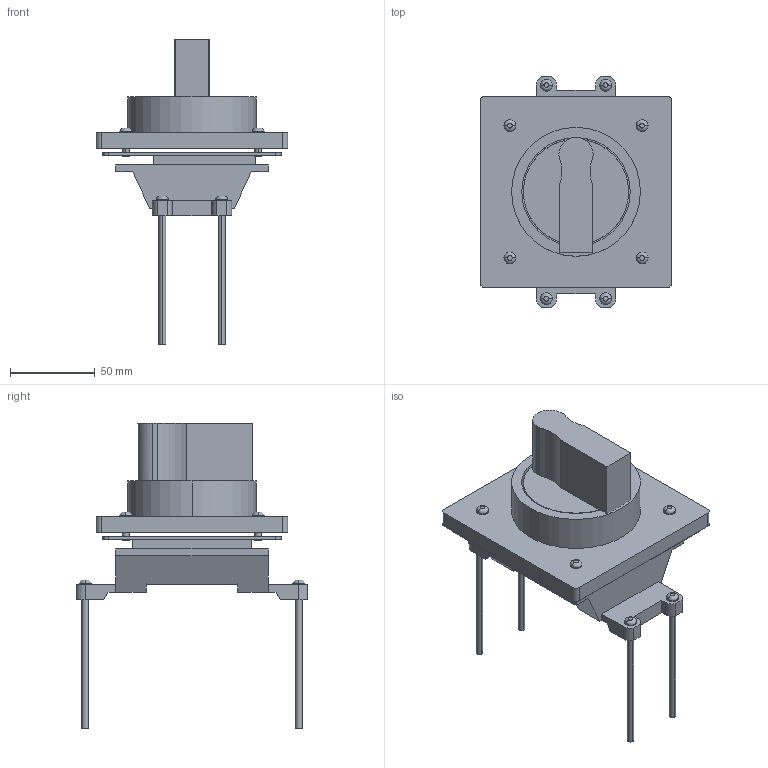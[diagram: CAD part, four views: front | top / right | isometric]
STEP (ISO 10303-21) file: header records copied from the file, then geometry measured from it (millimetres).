
FILE_DESCRIPTION( ( '' ), '1' );
FILE_NAME( 'E:/D&C電子外形図_3D/step/distribution/g-twin/breaker_accessory/handle/BW9V0GA.stp', '2012-10-19T07:51:04', ( '' ), ( '' ), ' ', ' ', ' ' );
FILE_SCHEMA( ( 'automotive_design' ) );
Length unit declared in the file: millimetre
Products named in the file (12): 1; 2; 3; 4; 5; 6; 7; 8; 9; 10; 11; 12
Bounding box: 113 x 136.6 x 180.1 mm (x, y, z)
Volume: 407205.5 mm3; surface area: 101376.2 mm2
Topology: 12 solids, 12 shells, 187 faces, 463 edges, 310 vertices
Faces by surface type: plane 87, cylinder 84, torus 16
Entity records: 11353 total; most frequent: DIRECTION 1091, STYLED_ITEM 972, PRESENTATION_STYLE_ASSIGNMENT 972, CARTESIAN_POINT 972, COLOUR_RGB 972, ORIENTED_EDGE 926, EDGE_CURVE 463, CURVE_STYLE 463
